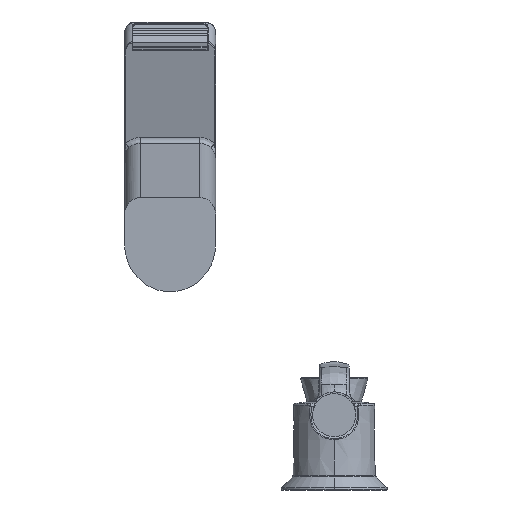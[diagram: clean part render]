
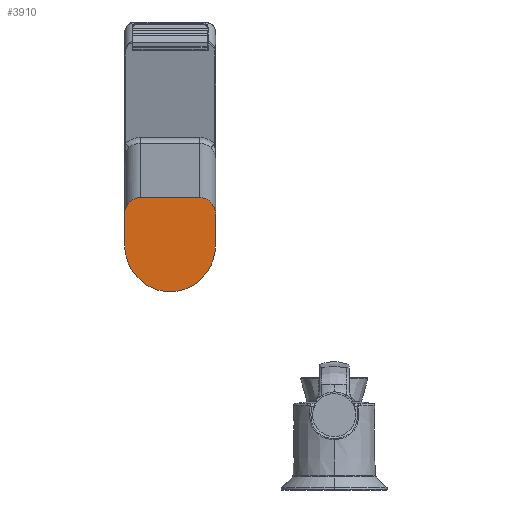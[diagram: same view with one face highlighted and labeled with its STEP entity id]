
A CAD part, front view. The second image highlights one B-rep face of the part: STEP entity #3910.
In plain terms, the highlighted planar face has unit normal (0, -1, 0).
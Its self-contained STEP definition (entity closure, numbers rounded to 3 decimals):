
#201 = FACE_OUTER_BOUND ( 'NONE', #19942, .T. ) ;
#433 = CARTESIAN_POINT ( 'NONE',  ( -15.75, 0., 25.105 ) ) ;
#858 = CARTESIAN_POINT ( 'NONE',  ( 24.25, 0., 21.46 ) ) ;
#2747 = CARTESIAN_POINT ( 'NONE',  ( 24.25, 0., -50.211 ) ) ;
#2985 =( BOUNDED_CURVE ( )  B_SPLINE_CURVE ( 3, ( #27636, #8224, #858, #22515 ),
 .UNSPECIFIED., .F., .T. ) 
 B_SPLINE_CURVE_WITH_KNOTS ( ( 4, 4 ),
 ( 0., 1.571 ),
 .UNSPECIFIED. ) 
 CURVE ( )  GEOMETRIC_REPRESENTATION_ITEM ( )  RATIONAL_B_SPLINE_CURVE ( ( 1., 0.805, 0.805, 1. ) ) 
 REPRESENTATION_ITEM ( '' )  );
#3910 = ADVANCED_FACE ( 'NONE', ( #201 ), #26053, .F. ) ;
#4106 = DIRECTION ( 'NONE',  ( 0., 0., 1. ) ) ;
#4678 = VECTOR ( 'NONE', #9957, 1000. ) ;
#5081 = CARTESIAN_POINT ( 'NONE',  ( -24.25, 0., -50.211 ) ) ;
#5439 = EDGE_CURVE ( 'NONE', #11320, #19326, #29191, .T. ) ;
#5693 =( BOUNDED_CURVE ( )  B_SPLINE_CURVE ( 3, ( #17141, #2747, #5081, #12133 ),
 .UNSPECIFIED., .F., .T. ) 
 B_SPLINE_CURVE_WITH_KNOTS ( ( 4, 4 ),
 ( 1.571, 4.712 ),
 .UNSPECIFIED. ) 
 CURVE ( )  GEOMETRIC_REPRESENTATION_ITEM ( )  RATIONAL_B_SPLINE_CURVE ( ( 1., 0.333, 0.333, 1. ) ) 
 REPRESENTATION_ITEM ( '' )  );
#6407 = ORIENTED_EDGE ( 'NONE', *, *, #10455, .F. ) ;
#6850 = DIRECTION ( 'NONE',  ( 0., 1., 0. ) ) ;
#7338 = CARTESIAN_POINT ( 'NONE',  ( 24.25, 0., 16.306 ) ) ;
#7465 = ORIENTED_EDGE ( 'NONE', *, *, #28471, .F. ) ;
#7968 = AXIS2_PLACEMENT_3D ( 'NONE', #31171, #6850, #4106 ) ;
#8224 = CARTESIAN_POINT ( 'NONE',  ( 20.729, 0., 25.105 ) ) ;
#8526 = CARTESIAN_POINT ( 'NONE',  ( 24.25, 0., 0. ) ) ;
#8561 = ORIENTED_EDGE ( 'NONE', *, *, #19083, .F. ) ;
#9738 = CARTESIAN_POINT ( 'NONE',  ( 0., 0., 25.105 ) ) ;
#9957 = DIRECTION ( 'NONE',  ( 1., 0., 0. ) ) ;
#10455 = EDGE_CURVE ( 'NONE', #18089, #30379, #24131, .T. ) ;
#11320 = VERTEX_POINT ( 'NONE', #22691 ) ;
#12133 = CARTESIAN_POINT ( 'NONE',  ( -24.25, 0., 0. ) ) ;
#14827 = CARTESIAN_POINT ( 'NONE',  ( 24.25, 0., -2.588 ) ) ;
#15075 = VERTEX_POINT ( 'NONE', #8526 ) ;
#16008 = VECTOR ( 'NONE', #21958, 1000. ) ;
#17141 = CARTESIAN_POINT ( 'NONE',  ( 24.25, 0., 0. ) ) ;
#17219 = EDGE_CURVE ( 'NONE', #30379, #19921, #2985, .T. ) ;
#18089 = VERTEX_POINT ( 'NONE', #433 ) ;
#19083 = EDGE_CURVE ( 'NONE', #19921, #15075, #28980, .T. ) ;
#19326 = VERTEX_POINT ( 'NONE', #27496 ) ;
#19921 = VERTEX_POINT ( 'NONE', #7338 ) ;
#19942 = EDGE_LOOP ( 'NONE', ( #8561, #29022, #6407, #20054, #25183, #7465 ) ) ;
#20054 = ORIENTED_EDGE ( 'NONE', *, *, #23393, .F. ) ;
#21297 = CARTESIAN_POINT ( 'NONE',  ( 15.75, 0., 25.105 ) ) ;
#21954 =( BOUNDED_CURVE ( )  B_SPLINE_CURVE ( 3, ( #27061, #24907, #27273, #27375 ),
 .UNSPECIFIED., .F., .T. ) 
 B_SPLINE_CURVE_WITH_KNOTS ( ( 4, 4 ),
 ( 4.712, 6.283 ),
 .UNSPECIFIED. ) 
 CURVE ( )  GEOMETRIC_REPRESENTATION_ITEM ( )  RATIONAL_B_SPLINE_CURVE ( ( 1., 0.805, 0.805, 1. ) ) 
 REPRESENTATION_ITEM ( '' )  );
#21958 = DIRECTION ( 'NONE',  ( 0., 0., -1. ) ) ;
#22515 = CARTESIAN_POINT ( 'NONE',  ( 24.25, 0., 16.306 ) ) ;
#22674 = DIRECTION ( 'NONE',  ( 0., 0., 1. ) ) ;
#22691 = CARTESIAN_POINT ( 'NONE',  ( -24.25, 0., 0. ) ) ;
#22701 = VECTOR ( 'NONE', #22674, 1000. ) ;
#23393 = EDGE_CURVE ( 'NONE', #19326, #18089, #21954, .T. ) ;
#24131 = LINE ( 'NONE', #9738, #4678 ) ;
#24907 = CARTESIAN_POINT ( 'NONE',  ( -24.25, 0., 21.46 ) ) ;
#25183 = ORIENTED_EDGE ( 'NONE', *, *, #5439, .F. ) ;
#25229 = CARTESIAN_POINT ( 'NONE',  ( -24.25, 0., -2.588 ) ) ;
#26053 = PLANE ( 'NONE',  #7968 ) ;
#27061 = CARTESIAN_POINT ( 'NONE',  ( -24.25, 0., 16.306 ) ) ;
#27273 = CARTESIAN_POINT ( 'NONE',  ( -20.729, 0., 25.105 ) ) ;
#27375 = CARTESIAN_POINT ( 'NONE',  ( -15.75, 0., 25.105 ) ) ;
#27496 = CARTESIAN_POINT ( 'NONE',  ( -24.25, 0., 16.306 ) ) ;
#27636 = CARTESIAN_POINT ( 'NONE',  ( 15.75, 0., 25.105 ) ) ;
#28471 = EDGE_CURVE ( 'NONE', #15075, #11320, #5693, .T. ) ;
#28980 = LINE ( 'NONE', #14827, #16008 ) ;
#29022 = ORIENTED_EDGE ( 'NONE', *, *, #17219, .F. ) ;
#29191 = LINE ( 'NONE', #25229, #22701 ) ;
#30379 = VERTEX_POINT ( 'NONE', #21297 ) ;
#31171 = CARTESIAN_POINT ( 'NONE',  ( 0., 0., 0. ) ) ;
